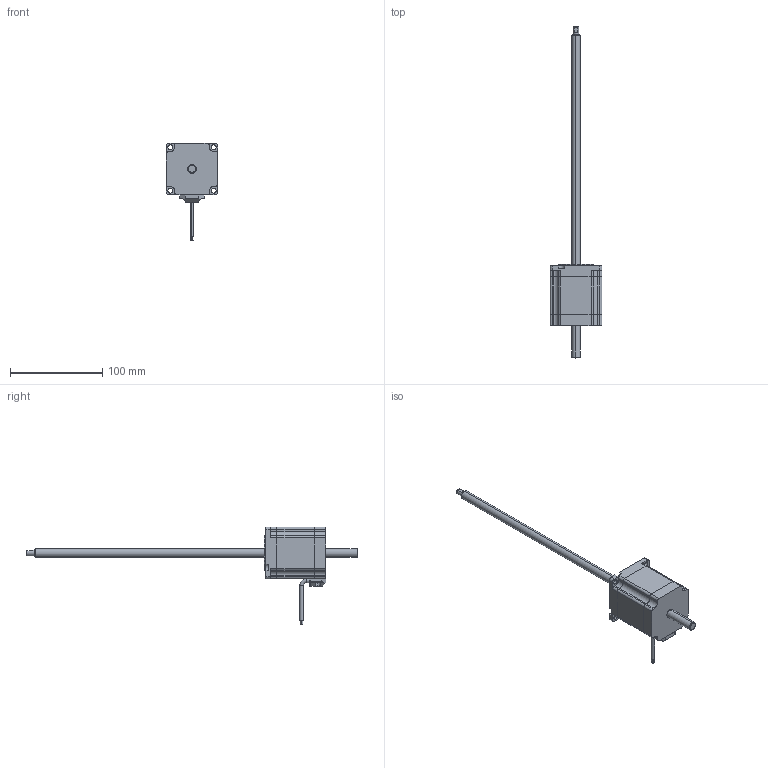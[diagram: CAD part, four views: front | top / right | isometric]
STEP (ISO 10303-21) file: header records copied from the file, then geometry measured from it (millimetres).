
FILE_DESCRIPTION (( 'STEP AP203' ), '1' );
FILE_NAME ('57N265-5.08-4-4-360-001.STEP', '2020-03-14T09:09:51', ( '' ), ( '' ), 'SwSTEP 2.0', 'SolidWorks 2017', '' );
FILE_SCHEMA (( 'CONFIG_CONTROL_DESIGN' ));
Length unit declared in the file: millimetre
Products named in the file (1): 57N265-5.08-4-4-360-001
Bounding box: 56.2 x 360 x 106.2 mm (x, y, z)
Volume: 209673.4 mm3; surface area: 34752.8 mm2
Topology: 2 solids, 2 shells, 205 faces, 554 edges, 365 vertices
Faces by surface type: cylinder 101, plane 96, cone 6, torus 2
Entity records: 6632 total; most frequent: CARTESIAN_POINT 1215, DIRECTION 1153, ORIENTED_EDGE 1108, EDGE_CURVE 554, AXIS2_PLACEMENT_3D 411, VERTEX_POINT 365, VECTOR 331, LINE 331
